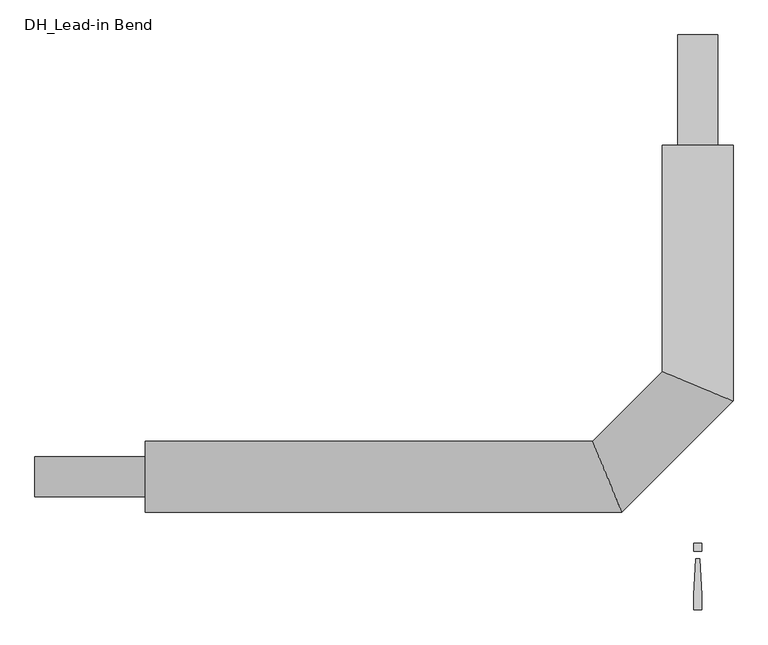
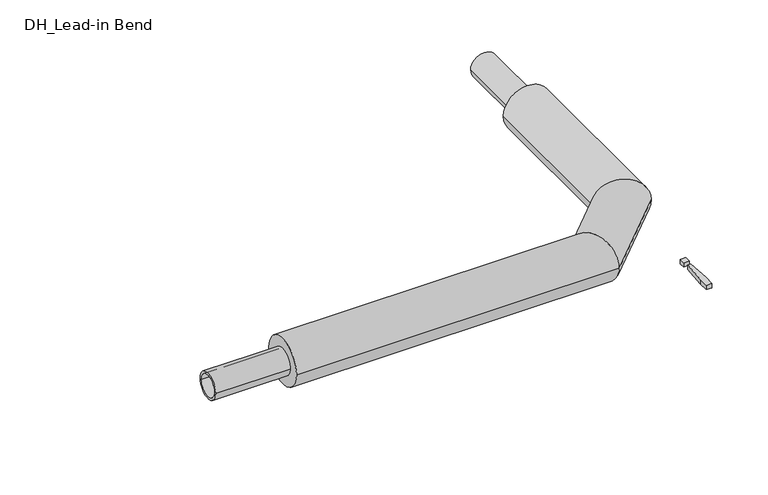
"""IFC4 building model written with IfcOpenShell, lengths in millimetres: pipe fitting geometry, DH_Lead-in Bend : INSULPEX UNO 11 Heating."""

import ifcopenshell
import ifcopenshell.guid

model = None  # the IFC model being written
_history = None  # IfcOwnerHistory: only IFC2X3 demands one
_inside = {}  # id of a spatial element -> (the spatial element, [elements in it])
_under = {}  # id of a project, library or spatial element -> (it, [spatial elements below it])
_declared = {}  # id of a project -> (the project, [libraries it declares])
_typed = {}  # id of a type object -> (the type object, [elements of that type])
_made_of = {}  # id of a material, layer set ... -> (it, [elements and type objects made of it])


def new_model(schema):
    """Start an empty IFC model of exactly this schema.

    Asked for "IFC4X3", IfcOpenShell would pick the latest addendum, in which some entities
    have other attributes; the version numbers below select the first issue.
    IFC2X3 requires an IfcOwnerHistory on every rooted entity: one is made here for all.
    """
    global model, _history
    if schema == "IFC4X3":
        model = ifcopenshell.file(schema_version=(4, 3, 0, 0))
    else:
        model = ifcopenshell.file(schema=schema)
    _inside.clear()
    _under.clear()
    _declared.clear()
    _typed.clear()
    _made_of.clear()
    _history = None
    if model.schema == "IFC2X3":
        org = make("IfcOrganization", Name="unknown")
        user = make(
            "IfcPersonAndOrganization",
            ThePerson=make("IfcPerson", FamilyName="unknown"),
            TheOrganization=org,
        )
        app = make(
            "IfcApplication",
            ApplicationDeveloper=org,
            Version="unknown",
            ApplicationFullName="unknown",
            ApplicationIdentifier="unknown",
        )
        _history = make(
            "IfcOwnerHistory",
            OwningUser=user,
            OwningApplication=app,
            ChangeAction="ADDED",
            CreationDate=0,
        )
    return model


def make(cls, **values):
    """One entity of the class cls with the attributes given. An attribute that is None is left unset."""
    return model.create_entity(
        cls, **{name: value for name, value in values.items() if value is not None}
    )


def rooted(cls, **values):
    """An entity with a GlobalId (a new one), such as an element, a storey or a relation."""
    return make(cls, GlobalId=ifcopenshell.guid.new(), OwnerHistory=_history, **values)


def si_unit(unit_type, name, prefix=None):
    """IfcSIUnit, for example si_unit("LENGTHUNIT", "METRE", prefix="MILLI")."""
    return make("IfcSIUnit", UnitType=unit_type, Prefix=prefix, Name=name)


def assignment(units):
    """IfcUnitAssignment: the units of a project."""
    return None if units is None else make("IfcUnitAssignment", Units=units)


def point(xyz):
    """IfcCartesianPoint."""
    return None if xyz is None else make("IfcCartesianPoint", Coordinates=xyz)


def direction(xyz):
    """IfcDirection."""
    return None if xyz is None else make("IfcDirection", DirectionRatios=xyz)


def frame(location, z_axis=None, x_axis=None):
    """IfcAxis2Placement3D, a coordinate frame: its origin and axes. An axis left out is left unset."""
    return make(
        "IfcAxis2Placement3D",
        Location=point(location),
        Axis=direction(z_axis),
        RefDirection=direction(x_axis),
    )


def frame_2d(location, x_axis=None):
    """IfcAxis2Placement2D, a coordinate frame in the plane: its origin and x axis."""
    return make(
        "IfcAxis2Placement2D", Location=point(location), RefDirection=direction(x_axis)
    )


def origin():
    """The frame at (0, 0, 0) with its axes left unset."""
    return frame((0.0, 0.0, 0.0))


def origin_with_axes():
    """The frame at (0, 0, 0) with the z axis (0, 0, 1) and the x axis (1, 0, 0) written out."""
    return frame((0.0, 0.0, 0.0), z_axis=(0.0, 0.0, 1.0), x_axis=(1.0, 0.0, 0.0))


def origin_2d():
    """The frame at (0, 0) in the plane with its x axis left unset."""
    return frame_2d((0.0, 0.0))


def place(relative_to, where):
    """IfcLocalPlacement: puts the frame where relative to a parent placement (None: the world)."""
    return make(
        "IfcLocalPlacement", PlacementRelTo=relative_to, RelativePlacement=where
    )


def context(
    kind, dimensions, precision=None, world=None, true_north=None, identifier=None
):
    """IfcGeometricRepresentationContext, for example the 3D "Model" context."""
    return make(
        "IfcGeometricRepresentationContext",
        ContextIdentifier=identifier,
        ContextType=kind,
        CoordinateSpaceDimension=dimensions,
        Precision=precision,
        WorldCoordinateSystem=world,
        TrueNorth=true_north,
    )


def project(units=None, contexts=None):
    """IfcProject with its units and contexts."""
    return rooted(
        "IfcProject",
        Name="project",
        RepresentationContexts=contexts,
        UnitsInContext=assignment(units),
    )


def spatial(cls, under=None, at=None, **own):
    """A site, building, storey or space (cls), placed at a placement, below another one or the project."""
    s = rooted(cls, ObjectPlacement=at, **own)
    if under is not None:
        _under.setdefault(under.id(), (under, []))[1].append(s)
    return s


def polyline(points):
    """IfcPolyline through the points."""
    return make("IfcPolyline", Points=[point(p) for p in points])


def circle_curve(where, radius):
    """IfcCircle in the frame where."""
    return make("IfcCircle", Position=where, Radius=radius)


def ellipse_curve(where, semi_axis1, semi_axis2):
    """IfcEllipse in the frame where."""
    return make(
        "IfcEllipse", Position=where, SemiAxis1=semi_axis1, SemiAxis2=semi_axis2
    )


def trimmed(basis, trim1, trim2, sense, master):
    """IfcTrimmedCurve: the piece of a basis curve between two trims."""
    return make(
        "IfcTrimmedCurve",
        BasisCurve=basis,
        Trim1=trim1,
        Trim2=trim2,
        SenseAgreement=sense,
        MasterRepresentation=master,
    )


def segment(curve, same_sense, transition):
    """IfcCompositeCurveSegment."""
    return make(
        "IfcCompositeCurveSegment",
        Transition=transition,
        SameSense=same_sense,
        ParentCurve=curve,
    )


def composite_curve(segments, self_intersect=None):
    """IfcCompositeCurve: segments joined end to end."""
    return make("IfcCompositeCurve", Segments=segments, SelfIntersect=self_intersect)


def outline(outer, holes=None, kind="AREA"):
    """IfcArbitraryClosedProfileDef: a profile drawn as a closed curve; with holes, ...WithVoids."""
    if holes is None:
        return make("IfcArbitraryClosedProfileDef", ProfileType=kind, OuterCurve=outer)
    return make(
        "IfcArbitraryProfileDefWithVoids",
        ProfileType=kind,
        OuterCurve=outer,
        InnerCurves=holes,
    )


def extrude(swept, where, along, depth):
    """IfcExtrudedAreaSolid: the profile swept, set in the frame where, extruded along a direction by depth."""
    return make(
        "IfcExtrudedAreaSolid",
        SweptArea=swept,
        Position=where,
        ExtrudedDirection=direction(along),
        Depth=depth,
    )


def shape(context_of_items, identifier, shape_type, items):
    """IfcShapeRepresentation: the items that make up one representation, for example the "Body"."""
    return make(
        "IfcShapeRepresentation",
        ContextOfItems=context_of_items,
        RepresentationIdentifier=identifier,
        RepresentationType=shape_type,
        Items=items,
    )


def source(mapping_origin, context_of_items, identifier, shape_type, items):
    """IfcRepresentationMap: a shape defined once, which mapped items show again and again."""
    return make(
        "IfcRepresentationMap",
        MappingOrigin=mapping_origin,
        MappedRepresentation=shape(context_of_items, identifier, shape_type, items),
    )


def transform(
    local_origin,
    x_axis=None,
    y_axis=None,
    z_axis=None,
    scale=None,
    scale2=None,
    scale3=None,
    uniform=True,
):
    """IfcCartesianTransformationOperator3D, or its non-uniform kind. x_axis, y_axis, z_axis: its Axis1, 2, 3."""
    if uniform:
        return make(
            "IfcCartesianTransformationOperator3D",
            Axis1=direction(x_axis),
            Axis2=direction(y_axis),
            LocalOrigin=point(local_origin),
            Scale=scale,
            Axis3=direction(z_axis),
        )
    return make(
        "IfcCartesianTransformationOperator3DnonUniform",
        Axis1=direction(x_axis),
        Axis2=direction(y_axis),
        LocalOrigin=point(local_origin),
        Scale=scale,
        Axis3=direction(z_axis),
        Scale2=scale2,
        Scale3=scale3,
    )


def mapped(mapping_source, mapping_target):
    """IfcMappedItem: shows the shape of a source again, moved by a transform."""
    return make(
        "IfcMappedItem", MappingSource=mapping_source, MappingTarget=mapping_target
    )


def made_of(thing, what):
    """Note that an element or type object is made of a material, layer set ...; save() writes the relation."""
    if what is not None:
        _made_of.setdefault(what.id(), (what, []))[1].append(thing)
    return thing


def element(
    cls,
    number,
    at=None,
    inside=None,
    cuts=None,
    type_object=None,
    material=None,
    context=None,
    identifier="Body",
    shape_type=None,
    held_by="IfcProductDefinitionShape",
    body=None,
    shapes=None,
    **own,
):
    """One element of the class cls, such as IfcWall. Its Tag is "e" and its number.

    at: its placement. inside: the storey or other place that contains it. cuts: it is an
    opening in that element (IfcRelVoidsElement). A single representation is given by context,
    identifier, shape_type and body (its items); several are given by shapes. held_by: the class
    of the entity that holds the representations. save() writes the other relations.
    """
    e = rooted(cls, Tag="e%d" % number, ObjectPlacement=at, **own)
    if body is not None:
        shapes = [shape(context, identifier, shape_type, body)]
    if shapes is not None:
        e.Representation = make(held_by, Representations=shapes)
    if inside is not None:
        _inside.setdefault(inside.id(), (inside, []))[1].append(e)
    if cuts is not None:
        rooted(
            "IfcRelVoidsElement", RelatingBuildingElement=cuts, RelatedOpeningElement=e
        )
    if type_object is not None:
        _typed.setdefault(type_object.id(), (type_object, []))[1].append(e)
    return made_of(e, material)


def aggregate(whole, parts):
    """IfcRelAggregates: a whole, such as a stair, and the parts it consists of."""
    return rooted("IfcRelAggregates", RelatingObject=whole, RelatedObjects=parts)


def save(model, path):
    """Write the relations noted so far, then the file.

    IfcRelAggregates (storeys below a building ...), IfcRelContainedInSpatialStructure (elements
    in a storey), IfcRelDefinesByType, IfcRelAssociatesMaterial and IfcRelDeclares: one each for
    every whole, place, type object, material and project.
    """
    for whole, parts in _under.values():
        aggregate(whole, parts)
    for where, things in _inside.values():
        rooted(
            "IfcRelContainedInSpatialStructure",
            RelatedElements=things,
            RelatingStructure=where,
        )
    for kind, things in _typed.values():
        rooted("IfcRelDefinesByType", RelatedObjects=things, RelatingType=kind)
    for what, things in _made_of.values():
        rooted("IfcRelAssociatesMaterial", RelatedObjects=things, RelatingMaterial=what)
    for by, libraries in _declared.values():
        rooted("IfcRelDeclares", RelatingContext=by, RelatedDefinitions=libraries)
    model.write(path)


def plane_surface(at):
    """IfcPlane: the flat surface through the origin of the frame at, square to its z axis."""
    return make("IfcPlane", Position=at)


def cylinder_surface(at, radius):
    """IfcCylindricalSurface: all points at the distance radius from the z axis of the frame at."""
    return make("IfcCylindricalSurface", Position=at, Radius=radius)


def advanced_brep(points, edges, surfaces, faces):
    """IfcAdvancedBrep: a solid bounded by faces that lie on surfaces and meet in shared edges.

    An edge is (start, end): straight between two places in points (the first is 0);
    or (start, end, curve); or (start, end, curve, False) where it runs against its curve.
    A face is (place in surfaces, loops), or (place, loops, False) where it looks against
    its surface's normal. A loop lists edges by number (the first is 1), with a minus sign
    where the edge is run from its end to its start. The first loop is the outer one.
    """
    corners = [point(p) for p in points]
    vertices = [make("IfcVertexPoint", VertexGeometry=c) for c in corners]
    made = []
    for start, end, *more in edges:
        made.append(
            make(
                "IfcEdgeCurve",
                EdgeStart=vertices[start],
                EdgeEnd=vertices[end],
                EdgeGeometry=more[0] if more else make("IfcPolyline", Points=[corners[start], corners[end]]),
                SameSense=more[1] if len(more) > 1 else True,
            )
        )
    hull = []
    for where, loops, *sense in faces:
        bounds = []
        for j, loop in enumerate(loops):
            ring = [make("IfcOrientedEdge", EdgeElement=made[abs(k) - 1], Orientation=k > 0) for k in loop]
            bounds.append(
                make(
                    "IfcFaceOuterBound" if j == 0 else "IfcFaceBound",
                    Bound=make("IfcEdgeLoop", EdgeList=ring),
                    Orientation=True,
                )
            )
        hull.append(make("IfcAdvancedFace", Bounds=bounds, FaceSurface=surfaces[where], SameSense=sense[0] if sense else True))
    return make("IfcAdvancedBrep", Outer=make("IfcClosedShell", CfsFaces=hull))


def dh_lead_in_bend_2a2338d9(model_context):
    return source(origin(), model_context, "Body", "SolidModel", [
        advanced_brep(
        [(-1250.0, -80.0, 0.0), (-1250.0, 80.0, 0.0), (-171.862915, -80.0, 0.0), (-238.137085, 80.0, 0.0), (80.0, 750.0, 0.0), (-80.0, 750.0, 0.0), (-80.0, 238.137085, 0.0), (80.0, 171.862915, 0.0)],
        [
            (0, 1, circle_curve(frame((-1250.0, 0.0, 0.0), z_axis=(-1.0, 0.0, 0.0), x_axis=(0.0, 1.0, 0.0)), 80.0)),
            (1, 0, circle_curve(frame((-1250.0, 0.0, 0.0), z_axis=(-1.0, 0.0, 0.0), x_axis=(0.0, 1.0, 0.0)), 80.0)),
            (0, 2),
            (2, 3, ellipse_curve(frame((-205.0, 0.0, 0.0), z_axis=(-0.9238795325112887, -0.38268343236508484, 0.0), x_axis=(-0.3826834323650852, 0.9238795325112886, 0.0)), 86.591376, 80.0)),
            (3, 1),
            (3, 2, ellipse_curve(frame((-205.0, 0.0, 0.0), z_axis=(-0.9238795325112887, -0.38268343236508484, 0.0), x_axis=(-0.3826834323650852, 0.9238795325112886, 0.0)), 86.591376, 80.0)),
            (4, 5, circle_curve(frame((0.0, 750.0, 0.0), z_axis=(0.0, 1.0, 0.0), x_axis=(-1.0, 0.0, 0.0)), 80.0)),
            (5, 4, circle_curve(frame((0.0, 750.0, 0.0), z_axis=(0.0, 1.0, 0.0), x_axis=(-1.0, 0.0, 0.0)), 80.0)),
            (6, 7, ellipse_curve(frame((0.0, 205.0, 0.0), z_axis=(0.3826834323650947, 0.9238795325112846, 0.0), x_axis=(0.9238795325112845, -0.38268343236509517, 0.0)), 86.591376, 80.0)),
            (7, 4),
            (5, 6),
            (7, 6, ellipse_curve(frame((0.0, 205.0, 0.0), z_axis=(0.3826834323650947, 0.9238795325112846, 0.0), x_axis=(0.9238795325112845, -0.38268343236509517, 0.0)), 86.591376, 80.0)),
            (2, 7),
            (6, 3),
        ],
        [
            plane_surface(frame((-1250.0, 0.0, 0.0), z_axis=(-1.0, 0.0, 0.0), x_axis=(0.0, 0.0, 1.0))),
            cylinder_surface(frame((-1250.0, 0.0, 0.0), z_axis=(-1.0, 0.0, 0.0), x_axis=(0.0, 1.0, 0.0)), 80.0),
            plane_surface(frame((0.0, 750.0, 0.0), z_axis=(0.0, 1.0, 0.0), x_axis=(0.0, 0.0, 1.0))),
            cylinder_surface(frame((0.0, 205.0, 0.0), z_axis=(0.0, -1.0, 0.0), x_axis=(-1.0, 0.0, 0.0)), 80.0),
            cylinder_surface(frame((-205.0, 0.0, 0.0), z_axis=(-0.7071067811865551, -0.70710678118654, 0.0), x_axis=(-0.70710678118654, 0.7071067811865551, 0.0)), 80.0),
        ],
        [
            (0, [[1, 2]]),
            (1, [[-1, 3, 4, 5]]),
            (1, [[-2, -5, 6, -3]]),
            (2, [[7, 8]]),
            (3, [[9, 10, -8, 11]]),
            (3, [[12, -11, -7, -10]]),
            (4, [[-4, 13, -9, 14]]),
            (4, [[-6, -14, -12, -13]]),
        ],
    ),
        extrude(outline(polyline([(4.7088895, -185.3166715), (9.4177791, -266.6553807), (9.4177791, -300.6844652), (-9.4177791, -300.6844652), (-9.4177791, -266.6553807), (-4.7088895, -185.3166715), (4.7088895, -185.3166715)])), origin_with_axes(), (0.0, 0.0, 1.0), 15.0),
        extrude(outline(polyline([(9.4177791, -150.0), (9.4177791, -168.8355582), (-9.4177791, -168.8355582), (-9.4177791, -150.0), (9.4177791, -150.0)])), origin_with_axes(), (0.0, 0.0, 1.0), 15.0),
        extrude(outline(composite_curve([segment(trimmed(circle_curve(origin_2d(), 45.0), [point((-45.0, 0.0))], [point((45.0, 0.0))], False, "CARTESIAN"), True, "CONTINUOUS"), segment(trimmed(circle_curve(origin_2d(), 45.0), [point((45.0, 0.0))], [point((-45.0, 0.0))], False, "CARTESIAN"), True, "CONTINUOUS")], self_intersect=False), holes=[composite_curve([segment(trimmed(circle_curve(origin_2d(), 36.8), [point((-36.8, 0.0))], [point((36.8, 0.0))], True, "CARTESIAN"), True, "CONTINUOUS"), segment(trimmed(circle_curve(origin_2d(), 36.8), [point((36.8, 0.0))], [point((-36.8, 0.0))], True, "CARTESIAN"), True, "CONTINUOUS")], self_intersect=False)]), frame((-1500.0, 0.0, 0.0), z_axis=(1.0, 0.0, 0.0), x_axis=(0.0, 1.0, 0.0)), (0.0, 0.0, 1.0), 250.0),
        extrude(outline(composite_curve([segment(trimmed(circle_curve(origin_2d(), 45.0), [point((0.0, 45.0))], [point((0.0, -45.0))], False, "CARTESIAN"), True, "CONTINUOUS"), segment(trimmed(circle_curve(origin_2d(), 45.0), [point((0.0, -45.0))], [point((0.0, 45.0))], False, "CARTESIAN"), True, "CONTINUOUS")], self_intersect=False), holes=[composite_curve([segment(trimmed(circle_curve(origin_2d(), 36.8), [point((0.0, 36.8))], [point((0.0, -36.8))], True, "CARTESIAN"), True, "CONTINUOUS"), segment(trimmed(circle_curve(origin_2d(), 36.8), [point((0.0, -36.8))], [point((0.0, 36.8))], True, "CARTESIAN"), True, "CONTINUOUS")], self_intersect=False)]), frame((0.0, 750.0, 0.0), z_axis=(0.0, 1.0, 0.0), x_axis=(0.0, 0.0, 1.0)), (0.0, 0.0, 1.0), 250.0),
    ])


if __name__ == "__main__":
    model = new_model("IFC4")
    model_context = context("Model", 3, world=origin())
    ifc_project = project(units=[si_unit("LENGTHUNIT", "METRE", prefix="MILLI")], contexts=[model_context])
    site = spatial("IfcSite", under=ifc_project)
    building = spatial("IfcBuilding", under=site)
    placement = place(None, origin())
    dh_lead_in_bend_shape = dh_lead_in_bend_2a2338d9(model_context)
    element("IfcPipeFitting", 1, ObjectType="DH_Lead-in Bend : INSULPEX UNO 11 Heating", at=placement, inside=building, context=model_context, shape_type="MappedRepresentation", body=[
        mapped(dh_lead_in_bend_shape, transform((0.0, 0.0, 0.0), x_axis=(1.0, 0.0, 0.0), y_axis=(0.0, 1.0, 0.0), z_axis=(0.0, 0.0, 1.0))),
    ])
    save(model, "model.ifc")
